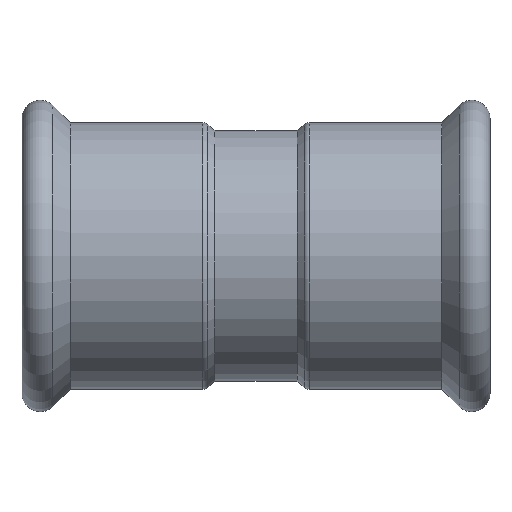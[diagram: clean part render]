
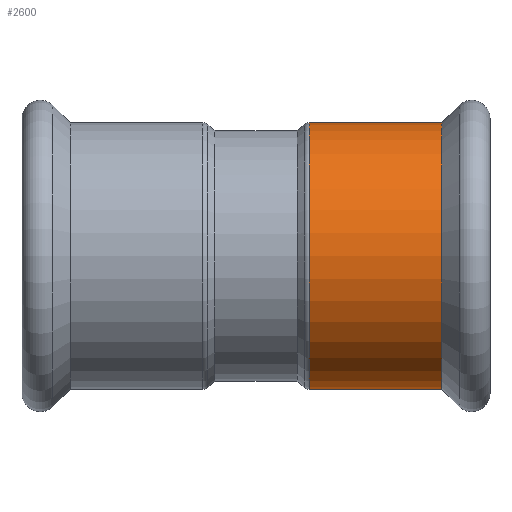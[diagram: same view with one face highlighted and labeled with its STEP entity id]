
A CAD part, top view. The second image highlights one B-rep face of the part: STEP entity #2600.
In plain terms, the highlighted cylindrical face has radius 40.45 mm (diameter 80.9 mm), a partial arc.
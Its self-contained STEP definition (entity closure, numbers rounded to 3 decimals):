
#2190=CARTESIAN_POINT('',(36.969,0.,0.));
#2200=DIRECTION('',(-1.,0.,0.));
#2210=DIRECTION('',(0.,1.,0.));
#2220=AXIS2_PLACEMENT_3D('',#2190,#2200,#2210);
#2230=CYLINDRICAL_SURFACE('',#2220,40.45);
#2240=CARTESIAN_POINT('',(36.969,40.45,0.));
#2250=DIRECTION('',(-1.,0.,0.));
#2260=VECTOR('',#2250,1.);
#2270=LINE('',#2240,#2260);
#2280=CARTESIAN_POINT('',(50.922,40.45,0.));
#2290=VERTEX_POINT('',#2280);
#2300=CARTESIAN_POINT('',(10.588,40.45,0.));
#2310=VERTEX_POINT('',#2300);
#2320=EDGE_CURVE('',#2290,#2310,#2270,.T.);
#2330=ORIENTED_EDGE('',*,*,#2320,.T.);
#2340=CARTESIAN_POINT('',(50.922,0.,0.));
#2350=DIRECTION('',(1.,0.,0.));
#2360=DIRECTION('',(0.,1.,0.));
#2370=AXIS2_PLACEMENT_3D('',#2340,#2350,#2360);
#2380=CIRCLE('',#2370,40.45);
#2390=CARTESIAN_POINT('',(50.922,-40.45,0.))
;
#2400=VERTEX_POINT('',#2390);
#2410=EDGE_CURVE('',#2290,#2400,#2380,.T.);
#2420=ORIENTED_EDGE('',*,*,#2410,.F.);
#2430=CARTESIAN_POINT('',(36.969,-40.45,0.))
;
#2440=DIRECTION('',(-1.,0.,0.));
#2450=VECTOR('',#2440,1.);
#2460=LINE('',#2430,#2450);
#2470=CARTESIAN_POINT('',(10.588,-40.45,0.));
#2480=VERTEX_POINT('',#2470);
#2490=EDGE_CURVE('',#2400,#2480,#2460,.T.);
#2500=ORIENTED_EDGE('',*,*,#2490,.F.);
#2510=CARTESIAN_POINT('',(10.588,0.,0.));
#2520=DIRECTION('',(-1.,0.,0.));
#2530=DIRECTION('',(0.,1.,0.));
#2540=AXIS2_PLACEMENT_3D('',#2510,#2520,#2530);
#2550=CIRCLE('',#2540,40.45);
#2560=EDGE_CURVE('',#2480,#2310,#2550,.T.);
#2570=ORIENTED_EDGE('',*,*,#2560,.F.);
#2580=EDGE_LOOP('',(#2570,#2500,#2420,#2330));
#2590=FACE_OUTER_BOUND('',#2580,.T.);
#2600=ADVANCED_FACE('',(#2590),#2230,.T.);
